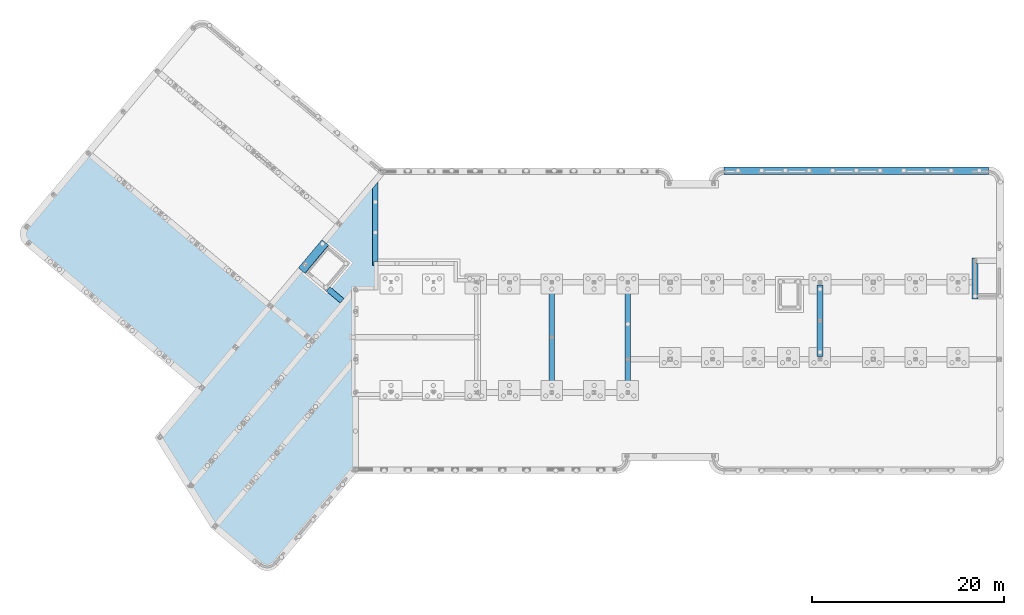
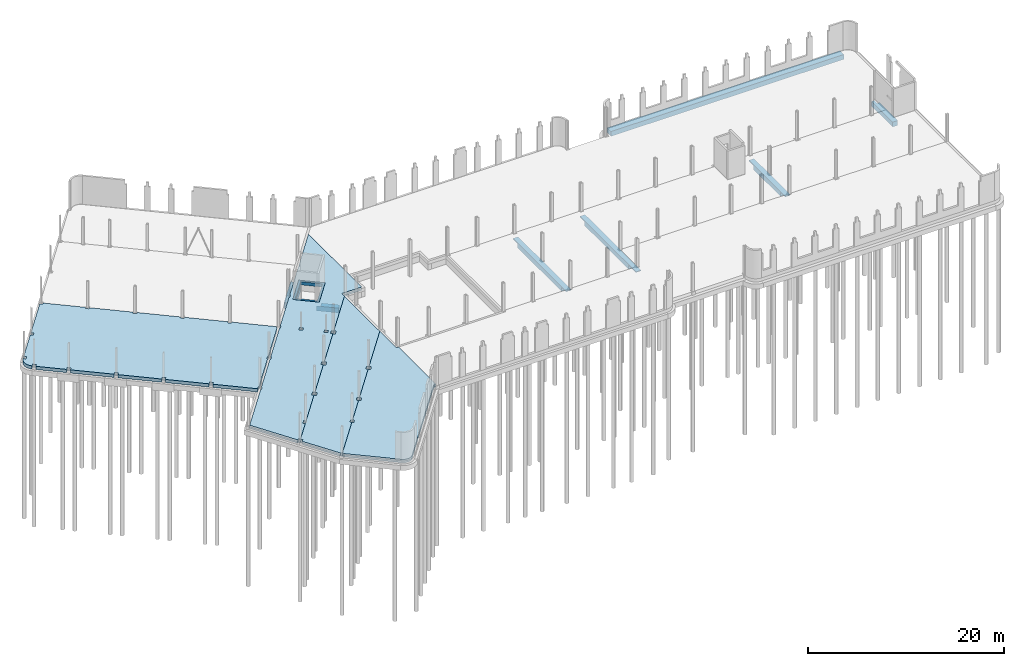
# One storey, part 19 of 26: 8 beams, 5 slabs, 2 openings.
"""IFC2X3 building model written with IfcOpenShell, lengths in millimetres."""

import ifcopenshell
import ifcopenshell.guid

model = None  # the IFC model being written
_history = None  # IfcOwnerHistory: only IFC2X3 demands one
_inside = {}  # id of a spatial element -> (the spatial element, [elements in it])
_under = {}  # id of a project, library or spatial element -> (it, [spatial elements below it])
_declared = {}  # id of a project -> (the project, [libraries it declares])
_typed = {}  # id of a type object -> (the type object, [elements of that type])
_made_of = {}  # id of a material, layer set ... -> (it, [elements and type objects made of it])


def new_model(schema):
    """Start an empty IFC model of exactly this schema.

    Asked for "IFC4X3", IfcOpenShell would pick the latest addendum, in which some entities
    have other attributes; the version numbers below select the first issue.
    IFC2X3 requires an IfcOwnerHistory on every rooted entity: one is made here for all.
    """
    global model, _history
    if schema == "IFC4X3":
        model = ifcopenshell.file(schema_version=(4, 3, 0, 0))
    else:
        model = ifcopenshell.file(schema=schema)
    _inside.clear()
    _under.clear()
    _declared.clear()
    _typed.clear()
    _made_of.clear()
    _history = None
    if model.schema == "IFC2X3":
        org = make("IfcOrganization", Name="unknown")
        user = make(
            "IfcPersonAndOrganization",
            ThePerson=make("IfcPerson", FamilyName="unknown"),
            TheOrganization=org,
        )
        app = make(
            "IfcApplication",
            ApplicationDeveloper=org,
            Version="unknown",
            ApplicationFullName="unknown",
            ApplicationIdentifier="unknown",
        )
        _history = make(
            "IfcOwnerHistory",
            OwningUser=user,
            OwningApplication=app,
            ChangeAction="ADDED",
            CreationDate=0,
        )
    return model


def make(cls, **values):
    """One entity of the class cls with the attributes given. An attribute that is None is left unset."""
    return model.create_entity(
        cls, **{name: value for name, value in values.items() if value is not None}
    )


def entity(cls, *values):
    """Any entity or typed value of the class cls, its attributes in the order of the schema. None: left unset."""
    e = model.create_entity(cls)
    for i, value in enumerate(values):
        if value is not None:
            e[i] = value
    return e


def rooted(cls, **values):
    """An entity with a GlobalId (a new one), such as an element, a storey or a relation."""
    return make(cls, GlobalId=ifcopenshell.guid.new(), OwnerHistory=_history, **values)


def si_unit(unit_type, name, prefix=None):
    """IfcSIUnit, for example si_unit("LENGTHUNIT", "METRE", prefix="MILLI")."""
    return make("IfcSIUnit", UnitType=unit_type, Prefix=prefix, Name=name)


def converted_unit(unit_type, name, factor, base, dimensions=None, offset=None):
    """IfcConversionBasedUnit, such as the inch: factor (a typed value) times the base unit."""
    return make(
        "IfcConversionBasedUnit"
        if offset is None
        else "IfcConversionBasedUnitWithOffset",
        ConversionOffset=offset,
        Dimensions=None
        if dimensions is None
        else entity("IfcDimensionalExponents", *dimensions),
        UnitType=unit_type,
        Name=name,
        ConversionFactor=make(
            "IfcMeasureWithUnit", ValueComponent=factor, UnitComponent=base
        ),
    )


def derived_unit(unit_type, elements):
    """IfcDerivedUnit: a product of units, each with its exponent."""
    return make(
        "IfcDerivedUnit",
        Elements=[
            make("IfcDerivedUnitElement", Unit=unit, Exponent=power)
            for unit, power in elements
        ],
        UnitType=unit_type,
    )


def assignment(units):
    """IfcUnitAssignment: the units of a project."""
    return None if units is None else make("IfcUnitAssignment", Units=units)


def point(xyz):
    """IfcCartesianPoint."""
    return None if xyz is None else make("IfcCartesianPoint", Coordinates=xyz)


def direction(xyz):
    """IfcDirection."""
    return None if xyz is None else make("IfcDirection", DirectionRatios=xyz)


def frame(location, z_axis=None, x_axis=None):
    """IfcAxis2Placement3D, a coordinate frame: its origin and axes. An axis left out is left unset."""
    return make(
        "IfcAxis2Placement3D",
        Location=point(location),
        Axis=direction(z_axis),
        RefDirection=direction(x_axis),
    )


def frame_2d(location, x_axis=None):
    """IfcAxis2Placement2D, a coordinate frame in the plane: its origin and x axis."""
    return make(
        "IfcAxis2Placement2D", Location=point(location), RefDirection=direction(x_axis)
    )


def origin():
    """The frame at (0, 0, 0) with its axes left unset."""
    return frame((0.0, 0.0, 0.0))


def place(relative_to, where):
    """IfcLocalPlacement: puts the frame where relative to a parent placement (None: the world)."""
    return make(
        "IfcLocalPlacement", PlacementRelTo=relative_to, RelativePlacement=where
    )


def context(
    kind, dimensions, precision=None, world=None, true_north=None, identifier=None
):
    """IfcGeometricRepresentationContext, for example the 3D "Model" context."""
    return make(
        "IfcGeometricRepresentationContext",
        ContextIdentifier=identifier,
        ContextType=kind,
        CoordinateSpaceDimension=dimensions,
        Precision=precision,
        WorldCoordinateSystem=world,
        TrueNorth=true_north,
    )


def subcontext(parent, identifier, kind, view, scale=None):
    """IfcGeometricRepresentationSubContext, for example "Body" below "Model"."""
    return make(
        "IfcGeometricRepresentationSubContext",
        ContextIdentifier=identifier,
        ContextType=kind,
        ParentContext=parent,
        TargetScale=scale,
        TargetView=view,
    )


def project(units=None, contexts=None):
    """IfcProject with its units and contexts."""
    return rooted(
        "IfcProject",
        Name="project",
        RepresentationContexts=contexts,
        UnitsInContext=assignment(units),
    )


def spatial(cls, under=None, at=None, **own):
    """A site, building, storey or space (cls), placed at a placement, below another one or the project."""
    s = rooted(cls, ObjectPlacement=at, **own)
    if under is not None:
        _under.setdefault(under.id(), (under, []))[1].append(s)
    return s


def polyline(points):
    """IfcPolyline through the points."""
    return make("IfcPolyline", Points=[point(p) for p in points])


def circle_curve(where, radius):
    """IfcCircle in the frame where."""
    return make("IfcCircle", Position=where, Radius=radius)


def parameter(value):
    """IfcParameterValue: where a trimmed curve begins or ends, as a parameter of its basis curve."""
    return model.create_entity("IfcParameterValue", value)


def trimmed(basis, trim1, trim2, sense, master):
    """IfcTrimmedCurve: the piece of a basis curve between two trims."""
    return make(
        "IfcTrimmedCurve",
        BasisCurve=basis,
        Trim1=trim1,
        Trim2=trim2,
        SenseAgreement=sense,
        MasterRepresentation=master,
    )


def segment(curve, same_sense, transition):
    """IfcCompositeCurveSegment."""
    return make(
        "IfcCompositeCurveSegment",
        Transition=transition,
        SameSense=same_sense,
        ParentCurve=curve,
    )


def composite_curve(segments, self_intersect=None):
    """IfcCompositeCurve: segments joined end to end."""
    return make("IfcCompositeCurve", Segments=segments, SelfIntersect=self_intersect)


def profile(cls, at=None, kind="AREA", **sizes):
    """A parametric profile (cls). Its sizes go by their IFC names, for example OverallWidth=200.0."""
    return make(cls, ProfileType=kind, Position=at, **sizes)


def rectangle(**sizes):
    """IfcRectangleProfileDef."""
    return profile("IfcRectangleProfileDef", **sizes)


def outline(outer, holes=None, kind="AREA"):
    """IfcArbitraryClosedProfileDef: a profile drawn as a closed curve; with holes, ...WithVoids."""
    if holes is None:
        return make("IfcArbitraryClosedProfileDef", ProfileType=kind, OuterCurve=outer)
    return make(
        "IfcArbitraryProfileDefWithVoids",
        ProfileType=kind,
        OuterCurve=outer,
        InnerCurves=holes,
    )


def extrude(swept, where, along, depth):
    """IfcExtrudedAreaSolid: the profile swept, set in the frame where, extruded along a direction by depth."""
    return make(
        "IfcExtrudedAreaSolid",
        SweptArea=swept,
        Position=where,
        ExtrudedDirection=direction(along),
        Depth=depth,
    )


def boolean(op, a, b):
    """IfcBooleanResult of two solids."""
    return make("IfcBooleanResult", Operator=op, FirstOperand=a, SecondOperand=b)


def faces_of(points, faces, orient=None, outer=None):
    """IfcFace entities. A face is a list of loops; a loop is a list of indices into points, from 0.

    orient and outer hold one flag for each loop. By default every Orientation is true, the
    first loop of a face is its IfcFaceOuterBound and the others are IfcFaceBound.
    """
    made = []
    for i, loops in enumerate(faces):
        bounds = []
        for j, loop in enumerate(loops):
            is_outer = j == 0 if outer is None else outer[i][j]
            bounds.append(
                make(
                    "IfcFaceOuterBound" if is_outer else "IfcFaceBound",
                    Bound=make("IfcPolyLoop", Polygon=[points[k] for k in loop]),
                    Orientation=True if orient is None else orient[i][j],
                )
            )
        made.append(make("IfcFace", Bounds=bounds))
    return made


def faceted_brep(points, faces, orient=None, outer=None, voids=None):
    """IfcFacetedBrep: a solid bounded by flat faces; with voids (closed shells), ...WithVoids."""
    shared = [point(p) for p in points]
    hull = make("IfcClosedShell", CfsFaces=faces_of(shared, faces, orient, outer))
    if voids is None:
        return make("IfcFacetedBrep", Outer=hull)
    return make(
        "IfcFacetedBrepWithVoids",
        Outer=hull,
        Voids=[
            make(cls, CfsFaces=faces_of(shared, fs, o, b)) for cls, fs, o, b in voids
        ],
    )


def shape(context_of_items, identifier, shape_type, items):
    """IfcShapeRepresentation: the items that make up one representation, for example the "Body"."""
    return make(
        "IfcShapeRepresentation",
        ContextOfItems=context_of_items,
        RepresentationIdentifier=identifier,
        RepresentationType=shape_type,
        Items=items,
    )


def material(Name=None, Category=None):
    """IfcMaterial."""
    return make("IfcMaterial", Name=Name, Category=Category)


def layer(
    of_material, thickness, ventilated=None, Name=None, Category=None, Priority=None
):
    """IfcMaterialLayer: one layer of a wall or slab, of a material (None: an air gap)."""
    return make(
        "IfcMaterialLayer",
        Material=of_material,
        LayerThickness=thickness,
        IsVentilated=ventilated,
        Name=Name,
        Category=Category,
        Priority=Priority,
    )


def layer_set(layers, Name=None):
    """IfcMaterialLayerSet."""
    return make("IfcMaterialLayerSet", MaterialLayers=layers, LayerSetName=Name)


def layer_usage(for_layer_set, set_direction, sense, offset, extent=None):
    """IfcMaterialLayerSetUsage: how a layer set lies in its element."""
    return make(
        "IfcMaterialLayerSetUsage",
        ForLayerSet=for_layer_set,
        LayerSetDirection=set_direction,
        DirectionSense=sense,
        OffsetFromReferenceLine=offset,
        ReferenceExtent=extent,
    )


def made_of(thing, what):
    """Note that an element or type object is made of a material, layer set ...; save() writes the relation."""
    if what is not None:
        _made_of.setdefault(what.id(), (what, []))[1].append(thing)
    return thing


def type_object(cls, material=None, **own):
    """A type object (cls), such as IfcWallType, which elements share."""
    return made_of(rooted(cls, **own), material)


def element(
    cls,
    number,
    at=None,
    inside=None,
    cuts=None,
    type_object=None,
    material=None,
    context=None,
    identifier="Body",
    shape_type=None,
    held_by="IfcProductDefinitionShape",
    body=None,
    shapes=None,
    **own,
):
    """One element of the class cls, such as IfcWall. Its Tag is "e" and its number.

    at: its placement. inside: the storey or other place that contains it. cuts: it is an
    opening in that element (IfcRelVoidsElement). A single representation is given by context,
    identifier, shape_type and body (its items); several are given by shapes. held_by: the class
    of the entity that holds the representations. save() writes the other relations.
    """
    e = rooted(cls, Tag="e%d" % number, ObjectPlacement=at, **own)
    if body is not None:
        shapes = [shape(context, identifier, shape_type, body)]
    if shapes is not None:
        e.Representation = make(held_by, Representations=shapes)
    if inside is not None:
        _inside.setdefault(inside.id(), (inside, []))[1].append(e)
    if cuts is not None:
        rooted(
            "IfcRelVoidsElement", RelatingBuildingElement=cuts, RelatedOpeningElement=e
        )
    if type_object is not None:
        _typed.setdefault(type_object.id(), (type_object, []))[1].append(e)
    return made_of(e, material)


def aggregate(whole, parts):
    """IfcRelAggregates: a whole, such as a stair, and the parts it consists of."""
    return rooted("IfcRelAggregates", RelatingObject=whole, RelatedObjects=parts)


def save(model, path):
    """Write the relations noted so far, then the file.

    IfcRelAggregates (storeys below a building ...), IfcRelContainedInSpatialStructure (elements
    in a storey), IfcRelDefinesByType, IfcRelAssociatesMaterial and IfcRelDeclares: one each for
    every whole, place, type object, material and project.
    """
    for whole, parts in _under.values():
        aggregate(whole, parts)
    for where, things in _inside.values():
        rooted(
            "IfcRelContainedInSpatialStructure",
            RelatedElements=things,
            RelatingStructure=where,
        )
    for kind, things in _typed.values():
        rooted("IfcRelDefinesByType", RelatedObjects=things, RelatingType=kind)
    for what, things in _made_of.values():
        rooted("IfcRelAssociatesMaterial", RelatedObjects=things, RelatingMaterial=what)
    for by, libraries in _declared.values():
        rooted("IfcRelDeclares", RelatingContext=by, RelatedDefinitions=libraries)
    model.write(path)


model = new_model("IFC2X3")

# Units and contexts
model_context = context("Model", 3, precision=0.01, world=origin(), true_north=direction((6.123031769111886e-17, 1.0)))
body_context = subcontext(model_context, "Body", "Model", "MODEL_VIEW")
ifc_project = project(units=[si_unit("LENGTHUNIT", "METRE", prefix="MILLI"), si_unit("AREAUNIT", "SQUARE_METRE"), si_unit("VOLUMEUNIT", "CUBIC_METRE"), derived_unit("MASSDENSITYUNIT", [(si_unit("MASSUNIT", "GRAM", prefix="KILO"), 1), (si_unit("LENGTHUNIT", "METRE"), -3)]), si_unit("MASSUNIT", "GRAM", prefix="KILO"), converted_unit("PLANEANGLEUNIT", "DEGREE", entity("IfcPlaneAngleMeasure", 0.017453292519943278), si_unit("PLANEANGLEUNIT", "RADIAN"), dimensions=[0, 0, 0, 0, 0, 0, 0])], contexts=[model_context])

# Site, building, storey
site_placement = place(None, origin())
site = spatial("IfcSite", under=ifc_project, at=site_placement, Name="Default", CompositionType="ELEMENT")
building_placement = place(site_placement, origin())
building = spatial("IfcBuilding", under=site, at=building_placement, Name="AT constructie", CompositionType="ELEMENT")
storey_placement = place(building_placement, origin())
storey = spatial("IfcBuildingStorey", under=building, at=storey_placement, Name="00 begane grond", CompositionType="ELEMENT", Elevation=-1.0828671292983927e-12)

# Beams
ifc_material_1 = material(Name="f2_beton ihwg_gen")
beam_type_1 = type_object("IfcBeamType", Name="fund vierkant_gen_800x600", PredefinedType="NOTDEFINED")
beam_1_placement = place(storey_placement, frame((79446.87463111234, 43257.04350852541, 0.0)))
element("IfcBeam", 1, at=beam_1_placement, inside=storey, type_object=beam_type_1, material=ifc_material_1, Name="NLRS_16_SF_LIB_balk fundering beton_gen_AT:fund vierkant_gen_800x600", ObjectType="NLRS_16_SF_LIB_balk fundering beton_gen_AT:fund vierkant_gen_800x600", context=body_context, shape_type="SweptSolid", body=[
    extrude(rectangle(XDim=600.0000000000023, YDim=800.0, at=frame_2d((-5.684341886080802e-14, -4.348521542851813e-12), x_axis=(1.0, 0.0))), frame((0.0, -400.0, -750.0), z_axis=(1.0, 0.0, 0.0), x_axis=(0.0, 0.0, -1.0)), (0.0, 0.0, 1.0), 27499.99999999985),
])
beam_type_2 = type_object("IfcBeamType", Name="fund vierkant_gen_600x600", PredefinedType="NOTDEFINED")
beam_2_placement = place(storey_placement, frame((69146.87463111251, 19521.043508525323, -1050.0), z_axis=(0.0, 0.0, 1.0), x_axis=(0.0, 1.0, 0.0)))
element("IfcBeam", 2, at=beam_2_placement, inside=storey, type_object=beam_type_2, material=ifc_material_1, Name="NLRS_16_SF_LIB_balk fundering beton_gen_AT:fund vierkant_gen_600x600", ObjectType="NLRS_16_SF_LIB_balk fundering beton_gen_AT:fund vierkant_gen_600x600", context=body_context, shape_type="Brep", body=[
    faceted_brep([(0.0, -600.0, 600.0), (0.0, 0.0, 600.0), (0.0, 0.0, 500.0), (0.0, -600.0, 500.0), (3450.0, -600.0, 600.0), (4050.0, -600.0, 600.0), (11450.0, -600.0, 600.0), (11450.0, 0.0, 600.0), (600.0, 0.0, 600.0), (11450.0, 0.0, 500.0), (10510.843918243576, 0.0, 500.0), (10510.843918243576, 0.0, 0.0), (1539.156081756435, 0.0, 0.0), (1539.1560817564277, 0.0, 500.0), (600.0, 0.0, 500.0), (10510.843918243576, -600.0, 0.0), (4050.0, -600.0, 0.0), (3450.0, -600.0, 0.0), (1539.1560817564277, -600.0, 0.0), (11450.0, -600.0, 500.0), (1539.1560817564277, -600.0, 500.0), (10510.84391824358, -600.0, 500.0)], [[[0, 1, 2, 3]], [[1, 0, 4, 5, 6, 7, 8]], [[7, 9, 10, 11, 12, 13, 14, 2, 1, 8]], [[11, 15, 16, 17, 18, 12]], [[19, 6, 5, 4, 0, 3, 20, 18, 17, 16, 15, 21]], [[7, 6, 19, 9]], [[21, 10, 9, 19]], [[10, 21, 15, 11]], [[13, 20, 3, 2, 14]], [[20, 13, 12, 18]]]),
])
beam_3_placement = place(storey_placement, frame((42916.87463111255, 33021.043508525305, -1050.0), z_axis=(0.0, 0.0, 1.0), x_axis=(0.0, 1.0, 0.0)))
element("IfcBeam", 3, at=beam_3_placement, inside=storey, type_object=beam_type_2, material=ifc_material_1, Name="NLRS_16_SF_LIB_balk fundering beton_gen_AT:fund vierkant_gen_600x600", ObjectType="NLRS_16_SF_LIB_balk fundering beton_gen_AT:fund vierkant_gen_600x600", context=body_context, shape_type="Brep", body=[
    faceted_brep([(0.0, 0.0, 600.0), (0.0, 0.0, 0.0), (0.0, -150.0, 0.0), (0.0, -150.0, 600.0), (400.0, -150.0, 600.0), (400.0, -550.0, 600.0), (400.0, -600.0, 600.0), (8693.476290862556, -600.0, 600.0), (7978.424135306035, 0.0, 600.0), (7978.424135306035, 0.0, 0.0), (8693.476290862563, -600.0, 0.0), (400.0, -600.0, 0.0), (400.0, -150.0, 0.0)], [[[0, 1, 2, 3]], [[0, 3, 4, 5, 6, 7, 8]], [[1, 0, 8, 9]], [[2, 1, 9, 10, 11, 12]], [[6, 11, 10, 7]], [[11, 6, 5, 4, 12]], [[12, 4, 3, 2]], [[8, 7, 10, 9]]]),
])
beam_4_placement = place(storey_placement, frame((61241.87463111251, 20121.043508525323, -1050.0), z_axis=(0.0, 0.0, 1.0), x_axis=(0.0, 1.0, 0.0)))
element("IfcBeam", 4, at=beam_4_placement, inside=storey, type_object=beam_type_2, material=ifc_material_1, Name="NLRS_16_SF_LIB_balk fundering beton_gen_AT:fund vierkant_gen_600x600", ObjectType="NLRS_16_SF_LIB_balk fundering beton_gen_AT:fund vierkant_gen_600x600", context=body_context, shape_type="Brep", body=[
    faceted_brep([(0.0, 0.0, 600.0), (0.0, -600.0, 600.0), (10850.0, -600.0, 600.0), (10850.0, 0.0, 600.0), (10850.0, 0.0, 500.0), (9910.843918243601, 0.0, 500.0), (9910.843918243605, 0.0, 0.0), (939.1560817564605, 0.0, 0.0), (939.1560817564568, 0.0, 500.0), (0.0, 0.0, 500.0), (9910.843918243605, -600.0, 0.0), (939.1560817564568, -600.0, 0.0), (0.0, -600.0, 500.0), (939.1560817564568, -600.0, 500.0), (9910.843918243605, -600.0, 500.0), (10850.0, -600.0, 500.0)], [[[0, 1, 2, 3]], [[0, 3, 4, 5, 6, 7, 8, 9]], [[6, 10, 11, 7]], [[2, 1, 12, 13, 11, 10, 14, 15]], [[1, 0, 9, 12]], [[3, 2, 15, 4]], [[14, 5, 4, 15]], [[5, 14, 10, 6]], [[8, 13, 12, 9]], [[13, 8, 7, 11]]]),
])
beam_5_placement = place(storey_placement, frame((89107.37463111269, 23571.043508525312, -1050.0), z_axis=(0.0, 0.0, 1.0), x_axis=(0.0, 1.0, 0.0)))
element("IfcBeam", 5, at=beam_5_placement, inside=storey, type_object=beam_type_2, material=ifc_material_1, Name="NLRS_16_SF_LIB_balk fundering beton_gen_AT:fund vierkant_gen_600x600", ObjectType="NLRS_16_SF_LIB_balk fundering beton_gen_AT:fund vierkant_gen_600x600", context=body_context, shape_type="Brep", body=[
    faceted_brep([(0.0, -600.0, 600.0), (0.0, 0.0, 600.0), (0.0, 0.0, 500.0), (0.0, -600.0, 500.0), (7400.0, -600.0, 600.0), (7400.0, 0.0, 600.0), (7400.0, 0.0, 500.0), (6460.843918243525, 0.0, 500.0), (6460.843918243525, 0.0, 0.0), (939.156081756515, 0.0, 0.0), (939.156081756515, 0.0, 500.0), (6460.843918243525, -600.0, 0.0), (939.1560817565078, -600.0, 0.0), (7400.0, -600.0, 500.0), (939.1560817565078, -600.0, 500.0), (6460.843918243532, -600.0, 500.0)], [[[0, 1, 2, 3]], [[1, 0, 4, 5]], [[5, 6, 7, 8, 9, 10, 2, 1]], [[8, 11, 12, 9]], [[13, 4, 0, 3, 14, 12, 11, 15]], [[5, 4, 13, 6]], [[6, 13, 15, 7]], [[7, 15, 11, 8]], [[10, 14, 3, 2]], [[14, 10, 9, 12]]]),
])
beam_6_placement = place(storey_placement, frame((105225.87463489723, 29514.043508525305, -1050.0), z_axis=(0.0, 0.0, 1.0), x_axis=(0.0, 1.0, 0.0)))
element("IfcBeam", 6, at=beam_6_placement, inside=storey, type_object=beam_type_2, material=ifc_material_1, Name="NLRS_16_SF_LIB_balk fundering beton_gen_AT:fund vierkant_gen_600x600", ObjectType="NLRS_16_SF_LIB_balk fundering beton_gen_AT:fund vierkant_gen_600x600", context=body_context, shape_type="Brep", body=[
    faceted_brep([(0.0, -600.0, 600.0), (0.0, 0.0, 600.0), (0.0, 0.0, 0.0), (0.0, -600.0, 0.0), (4287.0, 0.0, 0.0), (4287.0, 0.0, 600.0), (4287.0, -312.70000060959, 600.0), (4287.0, -312.70000060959, 0.0), (600.0, -600.0, 600.0), (3687.0, -600.0, 600.0), (3687.0, -312.70000060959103, 600.0), (2057.0, 0.0, 600.0), (1457.0, 0.0, 600.0), (2057.0, 0.0, 0.0), (1457.0, 0.0, 0.0), (3687.0, -312.70000060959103, 0.0), (3687.0, -600.0, 0.0), (600.0, -600.0, 0.0)], [[[0, 1, 2, 3]], [[4, 5, 6, 7]], [[1, 0, 8, 9, 10, 6, 5, 11, 12]], [[2, 1, 12, 11, 5, 4, 13, 14]], [[3, 2, 14, 13, 4, 7, 15, 16, 17]], [[0, 3, 17, 16, 9, 8]], [[15, 10, 9, 16]], [[10, 15, 7, 6]]]),
])
beam_7_placement = place(storey_placement, frame((37816.20971816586, 29104.42208042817, -1050.0), z_axis=(0.0, 0.0, 1.0), x_axis=(-0.7660444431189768, 0.6427876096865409, 0.0)))
element("IfcBeam", 7, at=beam_7_placement, inside=storey, type_object=beam_type_2, material=ifc_material_1, Name="NLRS_16_SF_LIB_balk fundering beton_gen_AT:fund vierkant_gen_600x600", ObjectType="NLRS_16_SF_LIB_balk fundering beton_gen_AT:fund vierkant_gen_600x600", context=body_context, shape_type="Brep", body=[
    faceted_brep([(548.6518920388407, -1730.559300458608, 600.0), (548.6518920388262, -1137.5593004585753, 600.0), (948.6518920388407, -1137.5593004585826, 600.0), (948.6518920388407, -1130.5593004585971, 600.0), (-1347.3481079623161, -1130.5593004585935, 600.0), (-1347.3481079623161, -1730.5593004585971, 600.0), (948.6518920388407, -1130.5593004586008, 0.0), (-1347.3481079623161, -1130.5593004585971, 0.0), (548.6518920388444, -1137.5593004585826, 0.0), (548.6518920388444, -1730.5593004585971, 0.0), (-1347.3481079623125, -1730.5593004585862, 0.0), (948.6518920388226, -1137.559300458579, 0.0)], [[[0, 1, 2, 3, 4, 5]], [[3, 6, 7, 4]], [[8, 9, 10, 7, 6, 11]], [[9, 0, 5, 10]], [[1, 0, 9, 8]], [[2, 1, 8, 11]], [[5, 4, 7, 10]], [[6, 3, 2, 11]]]),
])
beam_type_3 = type_object("IfcBeamType", Name="fund vierkant_gen_1130x1100", PredefinedType="NOTDEFINED")
beam_8_placement = place(storey_placement, frame((35223.81856926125, 32166.882263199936, -1200.0), z_axis=(0.0, 0.0, 1.0), x_axis=(0.6427876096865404, 0.7660444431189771, 0.0)))
element("IfcBeam", 8, at=beam_8_placement, inside=storey, type_object=beam_type_3, material=ifc_material_1, Name="NLRS_16_SF_LIB_balk fundering beton_gen_AT:fund vierkant_gen_1130x1100", ObjectType="NLRS_16_SF_LIB_balk fundering beton_gen_AT:fund vierkant_gen_1130x1100", context=body_context, shape_type="Brep", body=[
    faceted_brep([(457.93560515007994, -545.7464026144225, 750.0), (457.9356051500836, 384.2535973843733, 750.0), (457.93560515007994, 384.25359738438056, 0.0), (457.9356051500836, -545.7464026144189, 0.0), (4267.935605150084, -545.7464026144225, 0.0), (4267.935605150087, 384.25359738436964, 0.0), (4267.935605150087, 384.25359738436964, 150.0), (4267.935605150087, 384.25359738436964, 750.0), (4267.935605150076, -215.74640261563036, 750.0), (4267.93560515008, -545.7464026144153, 750.0), (857.9356051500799, -545.7464026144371, 750.0), (857.9356051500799, -745.7464026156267, 750.0), (3867.9356051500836, -745.7464026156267, 750.0), (3867.9356051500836, -545.7464026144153, 750.0), (3867.9356051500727, -745.7464026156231, 0.0), (857.9356051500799, -745.7464026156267, 0.0), (3867.9356051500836, -545.7464026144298, 0.0), (857.9356051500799, -545.7464026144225, 0.0)], [[[0, 1, 2, 3]], [[4, 5, 6, 7, 8, 9]], [[7, 1, 0, 10, 11, 12, 13, 9, 8]], [[1, 7, 6, 5, 2]], [[14, 12, 11, 15]], [[16, 14, 15, 17, 3, 2, 5, 4]], [[13, 12, 14, 16]], [[11, 10, 17, 15]], [[13, 16, 4, 9]], [[17, 10, 0, 3]]]),
])

# Slab, opening
ifc_layer_1 = layer(ifc_material_1, 400.0)
ifc_layer_set_1 = layer_set([ifc_layer_1], Name="Floor:NLRS_23_FL_gewapend beton_400_opstort gen_AT")
ifc_layer_usage_1 = layer_usage(ifc_layer_set_1, "AXIS3", "POSITIVE", 0.0)
slab_type_1 = type_object("IfcSlabType", Name="NLRS_23_FL_gewapend beton_400_opstort gen_AT", PredefinedType="FLOOR", material=ifc_layer_set_1)
slab_1_placement = place(storey_placement, origin())
slab_1 = element("IfcSlab", 9, at=slab_1_placement, inside=storey, type_object=slab_type_1, material=ifc_layer_usage_1, Name="Floor:NLRS_23_FL_gewapend beton_400_opstort gen_AT", ObjectType="Floor:NLRS_23_FL_gewapend beton_400_opstort gen_AT", PredefinedType="FLOOR", context=body_context, shape_type="SweptSolid", body=[
    boolean("DIFFERENCE", extrude(rectangle(XDim=2759.999999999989, YDim=3510.0000000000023, at=frame_2d((3.296918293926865e-12, -2.7284841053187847e-12), x_axis=(1.0, 0.0))), frame((38179.58940716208, 32771.28940645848, -50.0), z_axis=(0.0, 0.0, -1.0), x_axis=(0.766044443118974, -0.6427876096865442, 0.0)), (0.0, 0.0, 1.0), 399.9999999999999), extrude(rectangle(XDim=3009.9999999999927, YDim=2259.9999999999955, at=frame_2d((9.094947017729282e-13, -4.661160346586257e-12), x_axis=(1.0, 0.0))), frame((38179.58940716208, 32771.28940645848, -450.0), z_axis=(0.0, 0.0, 1.0), x_axis=(0.6427876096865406, 0.7660444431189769, 0.0)), (0.0, 0.0, 1.0), 400.0)),
])
opening_1_placement = place(slab_1_placement, origin())
element("IfcOpeningElement", 10, at=opening_1_placement, cuts=slab_1, Name="Floor:NLRS_23_FL_gewapend beton_400_opstort gen_AT", ObjectType="Opening", context=body_context, shape_type="SweptSolid", body=[
    extrude(rectangle(XDim=2259.999999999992, YDim=3010.0000000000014, at=frame_2d((1.9326762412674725e-12, -4.547473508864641e-12), x_axis=(1.0, 0.0))), frame((38179.58940716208, 32771.28940645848, -50.0), z_axis=(0.0, 0.0, -1.0), x_axis=(0.7660444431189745, -0.6427876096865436, 0.0)), (0.0, 0.0, 1.0), 400.0),
])

# Slabs
ifc_material_2 = material(Name="f2_beton_prefab_gen")
ifc_layer_2 = layer(ifc_material_2, 260.0)
ifc_material_3 = material(Name="n7_isolatie_gen")
ifc_layer_3 = layer(ifc_material_3, 140.0)
ifc_layer_set_2 = layer_set([ifc_layer_2, ifc_layer_3], Name="Floor:NLRS_23_FL_geissoleerde kanaalplaatvloer 260_gen_AT")
ifc_layer_usage_2 = layer_usage(ifc_layer_set_2, "AXIS3", "POSITIVE", 0.0)
slab_type_2 = type_object("IfcSlabType", Name="NLRS_23_FL_geissoleerde kanaalplaatvloer 260_gen_AT", PredefinedType="FLOOR", material=ifc_layer_set_2)
slab_2_placement = place(storey_placement, origin())
element("IfcSlab", 11, at=slab_2_placement, inside=storey, type_object=slab_type_2, material=ifc_layer_usage_2, Name="Floor:NLRS_23_FL_geissoleerde kanaalplaatvloer 260_gen_AT", ObjectType="Floor:NLRS_23_FL_geissoleerde kanaalplaatvloer 260_gen_AT", PredefinedType="FLOOR", context=body_context, shape_type="SweptSolid", body=[
    extrude(outline(composite_curve([segment(polyline([(-7105.464846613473, -6467.672832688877), (468.03515338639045, -6467.672832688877)]), True, "CONTINUOUS"), segment(polyline([(468.03515338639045, -6467.672832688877), (468.03515338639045, -6267.672832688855)]), True, "CONTINUOUS"), segment(polyline([(468.0351533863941, -6267.672832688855), (519.5351533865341, -6267.672832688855)]), True, "CONTINUOUS"), segment(polyline([(519.5351533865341, -6267.672832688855), (519.5351533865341, -6207.437175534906)]), True, "CONTINUOUS"), segment(polyline([(519.5351533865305, -6207.437175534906), (10293.814095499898, 1994.1566798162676)]), True, "CONTINUOUS"), segment(trimmed(circle_curve(frame_2d((9656.344464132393, 2698.523394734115), x_axis=(0.6710206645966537, -0.7414386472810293)), 950.000000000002), [parameter(0.0)], [parameter(87.88986135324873)], True, "PARAMETER"), True, "CONTINUOUS"), segment(polyline([(10383.705521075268, 3309.6255898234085), (6559.072033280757, 7867.646289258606)]), True, "CONTINUOUS"), segment(polyline([(6559.072033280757, 7867.646289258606), (6519.620744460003, 7834.542727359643)]), True, "CONTINUOUS"), segment(polyline([(6519.620744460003, 7834.542727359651), (6391.0632225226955, 7987.751615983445)]), True, "CONTINUOUS"), segment(polyline([(6391.0632225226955, 7987.751615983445), (2116.5352299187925, 4400.996753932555)]), True, "CONTINUOUS"), segment(polyline([(2116.5352299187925, 4400.996753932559), (2245.092751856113, 4247.78786530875)]), True, "CONTINUOUS"), segment(polyline([(2245.092751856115, 4247.787865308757), (1938.6749746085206, 3990.6728214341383)]), True, "CONTINUOUS"), segment(polyline([(1938.6749746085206, 3990.6728214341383), (1810.1174526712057, 4143.881710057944)]), True, "CONTINUOUS"), segment(polyline([(1810.1174526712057, 4143.881710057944), (-923.5121425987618, 1850.0941248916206)]), True, "CONTINUOUS"), segment(polyline([(-923.5121425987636, 1850.0941248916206), (-762.8152401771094, 1658.5830141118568)]), True, "CONTINUOUS"), segment(polyline([(-762.8152401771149, 1658.5830141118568), (-1145.8374617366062, 1337.1892092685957)]), True, "CONTINUOUS"), segment(polyline([(-1145.8374617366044, 1337.1892092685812), (-1306.534364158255, 1528.7003200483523)]), True, "CONTINUOUS"), segment(polyline([(-1306.5343641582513, 1528.7003200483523), (-5232.512135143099, -1765.586179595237)]), True, "CONTINUOUS"), segment(polyline([(-5232.512135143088, -1765.5861795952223), (-5071.815232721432, -1957.0972903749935)]), True, "CONTINUOUS"), segment(polyline([(-5071.815232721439, -1957.0972903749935), (-5454.837454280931, -2278.4910952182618)]), True, "CONTINUOUS"), segment(polyline([(-5454.837454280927, -2278.491095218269), (-5615.534356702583, -2086.979984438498)]), True, "CONTINUOUS"), segment(polyline([(-5615.534356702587, -2086.979984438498), (-10508.508558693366, -6192.672832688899)]), True, "CONTINUOUS"), segment(polyline([(-10508.508558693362, -6192.672832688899), (-7105.464846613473, -6192.6728326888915)]), True, "CONTINUOUS"), segment(polyline([(-7105.464846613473, -6192.6728326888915), (-7105.464846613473, -6467.672832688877)]), True, "CONTINUOUS")], self_intersect=False)), frame((34679.20179842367, 12440.578661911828, -50.0), z_axis=(0.0, 0.0, -1.0), x_axis=(0.0, -1.0, 0.0)), (0.0, 0.0, 1.0), 400.0),
])
ifc_layer_usage_3 = layer_usage(ifc_layer_set_2, "AXIS3", "POSITIVE", 0.0)
slab_3_placement = place(storey_placement, origin())
element("IfcSlab", 12, at=slab_3_placement, inside=storey, type_object=slab_type_2, material=ifc_layer_usage_3, Name="Floor:NLRS_23_FL_geissoleerde kanaalplaatvloer 260_gen_AT", ObjectType="Floor:NLRS_23_FL_geissoleerde kanaalplaatvloer 260_gen_AT", PredefinedType="FLOOR", context=body_context, shape_type="SweptSolid", body=[
    extrude(outline(polyline([(-13930.367390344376, -8645.735396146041), (-6696.25159544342, -8645.735396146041), (-1803.2773934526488, -4540.042547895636), (-1963.9742958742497, -4348.531437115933), (-1580.9520743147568, -4027.137632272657), (-1420.2551718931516, -4218.648743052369), (2505.7225990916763, -924.3622434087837), (2345.025696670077, -732.8511326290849), (2728.047918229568, -411.4573277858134), (2888.7448206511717, -602.9684385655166), (5622.374415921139, 1690.8191466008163), (5493.816893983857, 1844.028035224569), (5800.2346712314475, 2101.143079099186), (5928.792193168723, 1947.934190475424), (10203.320185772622, 5534.6890525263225), (10074.762663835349, 5687.89794115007), (10091.644499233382, 5702.0634830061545), (6337.695763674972, 8034.837098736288), (6089.249105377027, 7826.365599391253), (5928.5522029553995, 8017.8767101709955), (-199.80334199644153, 2875.5758326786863), (-39.106439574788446, 2684.0647218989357), (-422.1286611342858, 2362.670917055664), (-582.825563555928, 2554.182027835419), (-4409.2175569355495, -656.5420825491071), (-4248.520654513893, -848.0531933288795), (-4631.542876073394, -1169.4469981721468), (-4792.239778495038, -977.9358873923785), (-8718.217549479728, -4272.222387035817), (-8557.520647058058, -4463.73349781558), (-8940.542868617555, -4785.127302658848), (-9101.239771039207, -4593.616191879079), (-13930.367390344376, -8645.735396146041)])), frame((32226.139234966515, 16252.835625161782, -50.0), z_axis=(0.0, 0.0, -1.0), x_axis=(0.0, -1.0, 0.0)), (0.0, 0.0, 1.0), 400.0),
])
ifc_layer_usage_4 = layer_usage(ifc_layer_set_2, "AXIS3", "POSITIVE", 0.0)
slab_4_placement = place(storey_placement, origin())
element("IfcSlab", 13, at=slab_4_placement, inside=storey, type_object=slab_type_2, material=ifc_layer_usage_4, Name="Floor:NLRS_23_FL_geissoleerde kanaalplaatvloer 260_gen_AT", ObjectType="Floor:NLRS_23_FL_geissoleerde kanaalplaatvloer 260_gen_AT", PredefinedType="FLOOR", context=body_context, shape_type="SweptSolid", body=[
    extrude(outline(composite_curve([segment(polyline([(-10853.793103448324, -6071.7478455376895), (-6436.29310344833, -6071.747845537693)]), True, "CONTINUOUS"), segment(polyline([(-6436.293103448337, -6071.747845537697), (-6436.2931034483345, -5871.747845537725)]), True, "CONTINUOUS"), segment(polyline([(-6436.29310344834, -5871.74784553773), (-6036.293103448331, -5871.747845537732)]), True, "CONTINUOUS"), segment(polyline([(-6036.2931034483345, -5871.7478455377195), (-6036.293103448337, -6071.747845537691)]), True, "CONTINUOUS"), segment(polyline([(-6036.293103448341, -6071.7478455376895), (-1506.2931034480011, -6071.747845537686)]), True, "CONTINUOUS"), segment(polyline([(-1506.2931034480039, -6071.747845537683), (-1506.2931034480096, -5871.747845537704)]), True, "CONTINUOUS"), segment(polyline([(-1506.2931034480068, -5871.747845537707), (-1106.2931034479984, -5871.747845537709)]), True, "CONTINUOUS"), segment(polyline([(-1106.2931034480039, -5871.747845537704), (-1106.2931034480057, -6071.747845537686)]), True, "CONTINUOUS"), segment(polyline([(-1106.2931034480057, -6071.747845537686), (3423.7068965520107, -6071.747845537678)]), True, "CONTINUOUS"), segment(polyline([(3423.7068965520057, -6071.747845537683), (3423.706896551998, -5871.747845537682)]), True, "CONTINUOUS"), segment(polyline([(3423.7068965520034, -5871.747845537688), (3823.706896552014, -5871.747845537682)]), True, "CONTINUOUS"), segment(polyline([(3823.7068965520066, -5871.747845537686), (3823.7068965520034, -6071.747845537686)]), True, "CONTINUOUS"), segment(polyline([(3823.706896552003, -6071.747845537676), (8353.706896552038, -6071.747845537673)]), True, "CONTINUOUS"), segment(polyline([(8353.706896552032, -6071.747845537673), (8353.706896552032, -5871.74784553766)]), True, "CONTINUOUS"), segment(polyline([(8353.706896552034, -5871.747845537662), (8753.706896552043, -5871.747845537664)]), True, "CONTINUOUS"), segment(polyline([(8753.706896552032, -5871.74784553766), (8753.706896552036, -6071.747845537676)]), True, "CONTINUOUS"), segment(polyline([(8753.706896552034, -6071.747845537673), (13408.70689655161, -6071.747845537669)]), True, "CONTINUOUS"), segment(polyline([(13408.706896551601, -6071.747845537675), (13408.706896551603, -5871.747845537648)]), True, "CONTINUOUS"), segment(polyline([(13408.706896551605, -5871.747845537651), (13483.706896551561, -5871.74784553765)]), True, "CONTINUOUS"), segment(polyline([(13483.70689655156, -5871.747845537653), (13483.706896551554, -646.747845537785)]), True, "CONTINUOUS"), segment(polyline([(13483.706896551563, -646.7478455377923), (13408.706896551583, -646.7478455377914)]), True, "CONTINUOUS"), segment(polyline([(13408.706896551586, -646.7478455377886), (13408.706896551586, -246.74784553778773)]), True, "CONTINUOUS"), segment(polyline([(13408.706896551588, -246.74784553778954), (13483.706896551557, -246.74784553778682)]), True, "CONTINUOUS"), segment(polyline([(13483.706896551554, -246.74784553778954), (13483.70689655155, 4848.252154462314)]), True, "CONTINUOUS"), segment(polyline([(13483.70689655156, 4848.252154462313), (13408.706896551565, 4848.252154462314)]), True, "CONTINUOUS"), segment(polyline([(13408.706896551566, 4848.252154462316), (13408.706896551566, 5178.252154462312)]), True, "CONTINUOUS"), segment(polyline([(13408.706896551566, 5178.252154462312), (8753.706896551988, 5178.252154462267)]), True, "CONTINUOUS"), segment(polyline([(8753.706896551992, 5178.252154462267), (8753.706896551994, 4853.252154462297)]), True, "CONTINUOUS"), segment(polyline([(8753.706896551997, 4853.2521544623), (8353.70689655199, 4853.252154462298)]), True, "CONTINUOUS"), segment(polyline([(8353.70689655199, 4853.2521544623), (8353.706896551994, 5178.252154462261)]), True, "CONTINUOUS"), segment(polyline([(8353.706896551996, 5178.252154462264), (3823.7068965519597, 5178.252154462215)]), True, "CONTINUOUS"), segment(polyline([(3823.7068965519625, 5178.252154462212), (3823.706896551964, 4853.252154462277)]), True, "CONTINUOUS"), segment(polyline([(3823.706896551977, 4853.252154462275), (3423.706896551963, 4853.252154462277)]), True, "CONTINUOUS"), segment(polyline([(3423.7068965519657, 4853.25215446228), (3423.7068965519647, 5178.2521544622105)]), True, "CONTINUOUS"), segment(polyline([(3423.7068965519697, 5178.2521544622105), (-1106.2931034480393, 5178.252154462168)]), True, "CONTINUOUS"), segment(polyline([(-1106.2931034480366, 5178.252154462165), (-1106.293103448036, 4853.252154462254)]), True, "CONTINUOUS"), segment(polyline([(-1106.293103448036, 4853.252154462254), (-1506.293103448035, 4853.252154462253)]), True, "CONTINUOUS"), segment(polyline([(-1506.2931034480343, 4853.252154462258), (-1506.2931034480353, 5178.2521544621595)]), True, "CONTINUOUS"), segment(polyline([(-1506.293103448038, 5178.252154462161), (-6036.293103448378, 5178.252154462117)]), True, "CONTINUOUS"), segment(polyline([(-6036.293103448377, 5178.252154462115), (-6036.293103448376, 4853.252154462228)]), True, "CONTINUOUS"), segment(polyline([(-6036.293103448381, 4853.252154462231), (-6436.293103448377, 4853.252154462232)]), True, "CONTINUOUS"), segment(polyline([(-6436.293103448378, 4853.252154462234), (-6436.293103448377, 5178.25215446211)]), True, "CONTINUOUS"), segment(polyline([(-6436.29310344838, 5178.252154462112), (-9636.293103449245, 5178.252154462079)]), True, "CONTINUOUS"), segment(polyline([(-9636.293103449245, 5178.252154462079), (-9636.293103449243, 4853.252154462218)]), True, "CONTINUOUS"), segment(polyline([(-9636.293103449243, 4853.252154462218), (-10036.293103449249, 4853.252154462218)]), True, "CONTINUOUS"), segment(polyline([(-10036.293103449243, 4853.252154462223), (-10036.293103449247, 5176.873758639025)]), True, "CONTINUOUS"), segment(trimmed(circle_curve(frame_2d((-9978.793103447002, 3978.252154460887), x_axis=(-0.047916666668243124, 0.998851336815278)), 1200.0000000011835), [parameter(0.0)], [parameter(78.9763964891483)], True, "PARAMETER"), True, "CONTINUOUS"), segment(polyline([(-11166.293103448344, 4151.005591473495), (-11166.29310344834, 4053.2521544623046)]), True, "CONTINUOUS"), segment(polyline([(-11166.29310344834, 4053.2521544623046), (-10853.793103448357, 4053.2521544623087)]), True, "CONTINUOUS"), segment(polyline([(-10853.793103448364, 4053.2521544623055), (-10853.793103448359, 3653.252154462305)]), True, "CONTINUOUS"), segment(polyline([(-10853.793103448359, 3653.252154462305), (-11166.293103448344, 3653.252154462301)]), True, "CONTINUOUS"), segment(polyline([(-11166.293103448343, 3653.2521544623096), (-11166.29310344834, -246.74784553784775)]), True, "CONTINUOUS"), segment(polyline([(-11166.29310344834, -246.74784553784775), (-10853.793103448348, -246.7478455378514)]), True, "CONTINUOUS"), segment(polyline([(-10853.793103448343, -246.74784553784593), (-10853.793103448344, -646.7478455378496)]), True, "CONTINUOUS"), segment(polyline([(-10853.793103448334, -646.7478455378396), (-11166.293103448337, -646.7478455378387)]), True, "CONTINUOUS"), segment(polyline([(-11166.293103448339, -646.7478455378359), (-11166.29310344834, -5871.7478455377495)]), True, "CONTINUOUS"), segment(polyline([(-11166.293103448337, -5871.747845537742), (-10853.793103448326, -5871.747845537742)]), True, "CONTINUOUS"), segment(polyline([(-10853.793103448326, -5871.747845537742), (-10853.793103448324, -6071.747845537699)]), True, "CONTINUOUS")], self_intersect=False)), frame((17984.037729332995, 32906.66345025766, -50.0), z_axis=(0.0, 0.0, -1.0), x_axis=(0.7660444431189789, -0.6427876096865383, 0.0)), (0.0, 0.0, 1.0), 400.0),
])

# Slab, opening
ifc_layer_usage_5 = layer_usage(ifc_layer_set_2, "AXIS3", "POSITIVE", 0.0)
slab_5_placement = place(storey_placement, origin())
slab_5 = element("IfcSlab", 14, at=slab_5_placement, inside=storey, type_object=slab_type_2, material=ifc_layer_usage_5, Name="Floor:NLRS_23_FL_geissoleerde kanaalplaatvloer 260_gen_AT", ObjectType="Floor:NLRS_23_FL_geissoleerde kanaalplaatvloer 260_gen_AT", PredefinedType="FLOOR", context=body_context, shape_type="SweptSolid", body=[
    boolean("DIFFERENCE", boolean("DIFFERENCE", boolean("DIFFERENCE", extrude(outline(polyline([(-17604.890575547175, -11168.889830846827), (-6713.801654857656, -11168.889830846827), (-6713.80165485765, -8823.88983084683), (-6175.961161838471, -8823.88983084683), (-1346.833542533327, -4771.770626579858), (-1507.530444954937, -4580.259515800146), (-1124.5082233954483, -4258.86571095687), (-963.8113209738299, -4450.376821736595), (2962.1664500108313, -1156.0903220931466), (2801.469547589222, -964.5792113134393), (3184.4917691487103, -643.1854064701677), (3345.188671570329, -834.6965172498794), (7171.5806649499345, 2376.0275931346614), (7010.883762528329, 2567.538703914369), (7393.905984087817, 2888.9325087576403), (7554.602886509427, 2697.421397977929), (11128.200213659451, 5696.025597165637), (10967.503311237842, 5887.5367079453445), (11350.52553279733, 6208.930512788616), (11511.222435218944, 6017.419402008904), (13682.95843146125, 7839.722275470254), (13522.261529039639, 8031.233386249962), (13645.203333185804, 8134.39380876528), (8908.07754783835, 11078.131942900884), (3948.829430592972, 6916.828676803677), (3997.038501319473, 6859.375343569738), (3690.620724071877, 6602.2602996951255), (3642.41165334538, 6659.713632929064), (-260.58478434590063, 3384.7107615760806), (-212.3757136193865, 3327.257428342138), (-518.7934908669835, 3070.142384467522), (-567.0025615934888, 3127.595717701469), (-4569.584776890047, -230.96954291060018), (-4521.375706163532, -288.4228761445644), (-4827.793483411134, -545.5379200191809), (-4876.0025541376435, -488.0845867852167), (-8878.584769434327, -3846.6498473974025), (-8830.375698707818, -3904.103180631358), (-9136.793475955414, -4161.218224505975), (-9185.002546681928, -4103.764891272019), (-13091.829206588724, -7381.981700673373), (-13043.620135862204, -7439.4350339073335), (-13350.03791310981, -7696.550077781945), (-13398.24698383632, -7639.0967445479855), (-17604.890575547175, -11168.889830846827)])), frame((32047.984800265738, 24007.241853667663, -50.0), z_axis=(0.0, 0.0, -1.0), x_axis=(0.0, -1.0, 0.0)), (0.0, 0.0, 1.0), 400.0), extrude(rectangle(XDim=399.99999999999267, YDim=400.0000000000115, at=frame_2d((-5.400124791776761e-13, -6.0822458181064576e-12), x_axis=(1.0, 0.0))), frame((34112.96671416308, 27339.92504345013, -450.0), z_axis=(0.0, 0.0, 1.0), x_axis=(0.6427876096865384, 0.7660444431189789, 0.0)), (0.0, 0.0, 1.0), 400.0)), extrude(rectangle(XDim=400.0000000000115, YDim=400.00000000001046, at=frame_2d((-9.407585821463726e-12, -2.2453150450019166e-12), x_axis=(1.0, 0.0))), frame((36104.68226627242, 25668.677258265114, -450.0), z_axis=(0.0, 0.0, 1.0), x_axis=(0.6427876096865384, 0.7660444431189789, 0.0)), (0.0, 0.0, 1.0), 400.0)), extrude(rectangle(XDim=3509.999999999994, YDim=2759.999999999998, at=frame_2d((2.8421709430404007e-12, -3.410605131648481e-12), x_axis=(1.0, 0.0))), frame((38179.58940716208, 32771.28940645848, -450.0), z_axis=(0.0, 0.0, 1.0), x_axis=(0.6427876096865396, 0.7660444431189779, 0.0)), (0.0, 0.0, 1.0), 400.0)),
])
opening_2_placement = place(slab_5_placement, origin())
element("IfcOpeningElement", 15, at=opening_2_placement, cuts=slab_5, Name="Floor:NLRS_23_FL_geissoleerde kanaalplaatvloer 260_gen_AT", ObjectType="Opening", context=body_context, shape_type="SweptSolid", body=[
    extrude(rectangle(XDim=2759.99999999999, YDim=3509.999999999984, at=frame_2d((-3.296918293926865e-12, 2.7284841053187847e-12), x_axis=(1.0, 0.0))), frame((38179.589407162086, 32771.28940645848, -50.0), z_axis=(0.0, 0.0, -1.0), x_axis=(0.7660444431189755, -0.6427876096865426, 0.0)), (0.0, 0.0, 1.0), 399.9999999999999),
])

save(model, "model.ifc")
